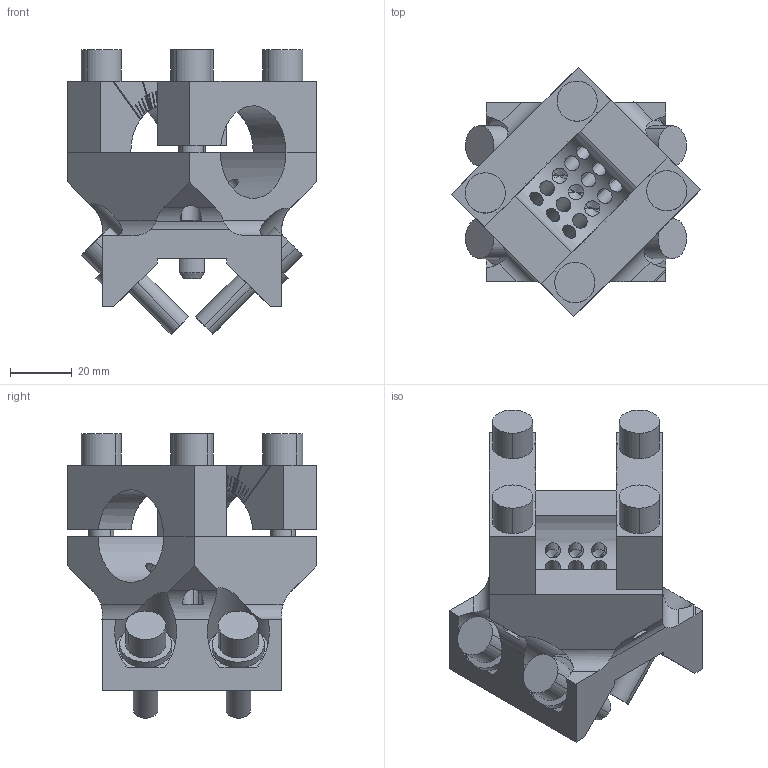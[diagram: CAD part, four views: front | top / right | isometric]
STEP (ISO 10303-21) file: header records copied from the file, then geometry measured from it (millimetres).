
FILE_DESCRIPTION(('STEP AP214'),'1');
FILE_NAME('EGT122_1729224_50RD30-X45-LI.CATPart.stp','2015-09-14T13:09:16',('3D-Tool'),(' '),'Spatial InterOp 3D',' ',' ');
FILE_SCHEMA(('automotive_design'));
Length unit declared in the file: millimetre
Products named in the file (12): EGT122_1729224_50RD30-X45-LI|EGT122_50RD30-X45-LI|Bohrbearbeitung; EGT122_1729224_50RD30-X45-LI|EGT205_SCHELLE_RD30_1|Assemble.75; EGT122_1729224_50RD30-X45-LI|EGT205_SCHELLE_RD30_2|Assemble.76; 1; 2; 3; 4; EGT122_1729224_50RD30-X45-LI|EGT_212_ZENTRIERSTIFT|Pocket.11; 5; 6; 7; 8
Bounding box: 80.61 x 80.61 x 91.97 mm (x, y, z)
Volume: 139955 mm3; surface area: 48597 mm2
Topology: 12 solids, 12 shells, 504 faces, 1334 edges, 818 vertices
Faces by surface type: plane 221, cylinder 205, cone 78
Entity records: 21243 total; most frequent: CARTESIAN_POINT 4877, ORIENTED_EDGE 2548, DIRECTION 2456, EDGE_CURVE 1274, AXIS2_PLACEMENT_3D 895, VERTEX_POINT 818, LINE 666, VECTOR 666
